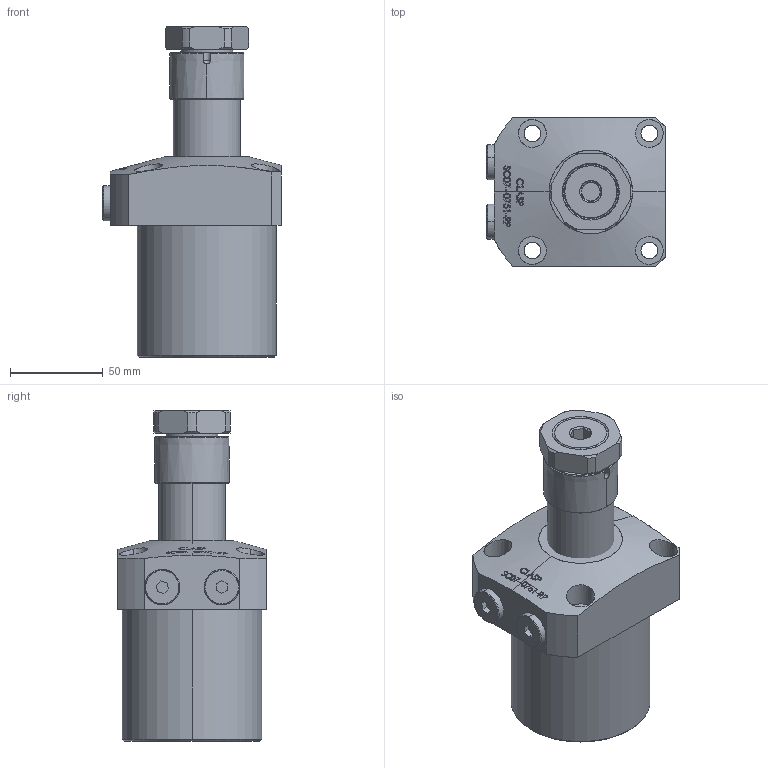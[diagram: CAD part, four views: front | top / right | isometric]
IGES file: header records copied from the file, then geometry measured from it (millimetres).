
Start section: SolidWorks IGES file using analytic representation for surfaces
Global section: file name: D:\karuppas\Clasp\3D model\SWING CYLINDER\Top Mounting swing cylinder\SC07-0751-R\SC07-0751-R.IGS; native system: SolidWorks 2017; preprocessor: SolidWorks 2017; author: pc; date: 220705.232403; units: millimetre
Bounding box: 96 x 80 x 178 mm (x, y, z)
Surface area: 71580.9 mm2 (no closed solid volume)
Topology: 0 solids, 0 shells, 379 faces, 6595 edges, 6594 vertices
Faces by surface type: bspline 266, revolution 113
